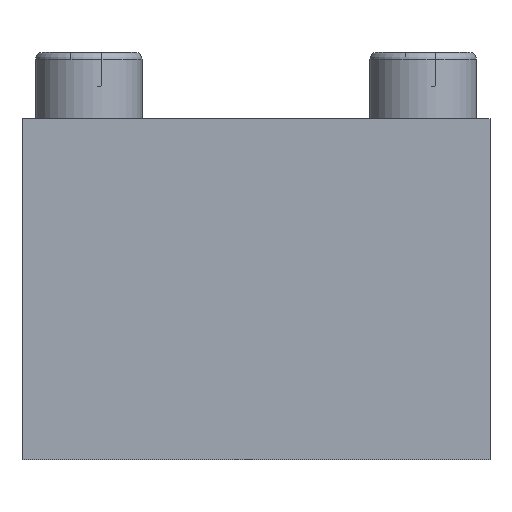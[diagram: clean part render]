
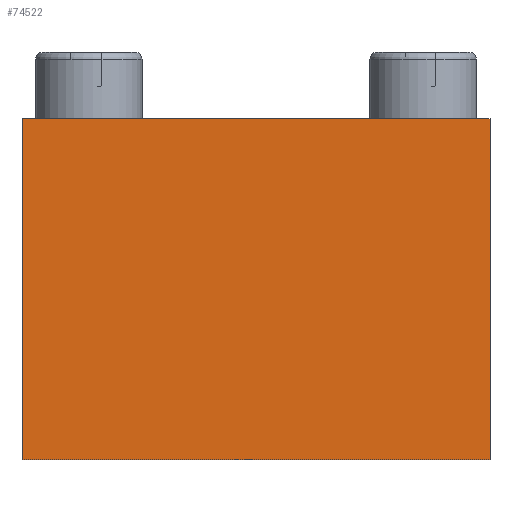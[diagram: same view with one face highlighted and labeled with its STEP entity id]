
A CAD part, front view. The second image highlights one B-rep face of the part: STEP entity #74522.
In plain terms, the highlighted planar face has unit normal (0, -1, 0).
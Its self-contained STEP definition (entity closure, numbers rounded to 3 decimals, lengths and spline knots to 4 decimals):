
#3219=LINE('',#91292,#10947);
#10942=LINE('',#124684,#18670);
#10943=LINE('',#124687,#18671);
#10944=LINE('',#124688,#18672);
#10947=VECTOR('',#77598,7.);
#18670=VECTOR('',#91211,5.1);
#18671=VECTOR('',#91214,7.);
#18672=VECTOR('',#91215,5.1);
#21359=PLANE('',#77512);
#25619=FACE_OUTER_BOUND('',#29876,.T.);
#29876=EDGE_LOOP('',(#66880,#66881,#66882,#66883));
#30065=VERTEX_POINT('',#91289);
#30066=VERTEX_POINT('',#91291);
#36770=VERTEX_POINT('',#124682);
#36771=VERTEX_POINT('',#124686);
#36799=EDGE_CURVE('',#30065,#30066,#3219,.T.);
#46812=EDGE_CURVE('',#30065,#36770,#10942,.T.);
#46813=EDGE_CURVE('',#36771,#36770,#10943,.T.);
#46814=EDGE_CURVE('',#30066,#36771,#10944,.T.);
#66880=ORIENTED_EDGE('',*,*,#46812,.T.);
#66881=ORIENTED_EDGE('',*,*,#46813,.F.);
#66882=ORIENTED_EDGE('',*,*,#46814,.F.);
#66883=ORIENTED_EDGE('',*,*,#36799,.F.);
#74522=ADVANCED_FACE('',(#25619),#21359,.T.);
#77512=AXIS2_PLACEMENT_3D('',#124685,#91212,#91213);
#77598=DIRECTION('',(1.,0.,0.));
#91211=DIRECTION('',(0.,0.,-1.));
#91212=DIRECTION('center_axis',(0.,-1.,0.));
#91213=DIRECTION('ref_axis',(-1.,0.,0.));
#91214=DIRECTION('',(-1.,0.,0.));
#91215=DIRECTION('',(0.,0.,-1.));
#91289=CARTESIAN_POINT('',(-3.5,-15.5,4.1));
#91291=CARTESIAN_POINT('',(3.5,-15.5,4.1));
#91292=CARTESIAN_POINT('',(3.5,-15.5,4.1));
#124682=CARTESIAN_POINT('',(-3.5,-15.5,-1.));
#124684=CARTESIAN_POINT('',(-3.5,-15.5,0.));
#124685=CARTESIAN_POINT('Origin',(3.5,-15.5,0.));
#124686=CARTESIAN_POINT('',(3.5,-15.5,-1.));
#124687=CARTESIAN_POINT('',(3.5,-15.5,-1.));
#124688=CARTESIAN_POINT('',(3.5,-15.5,0.));
